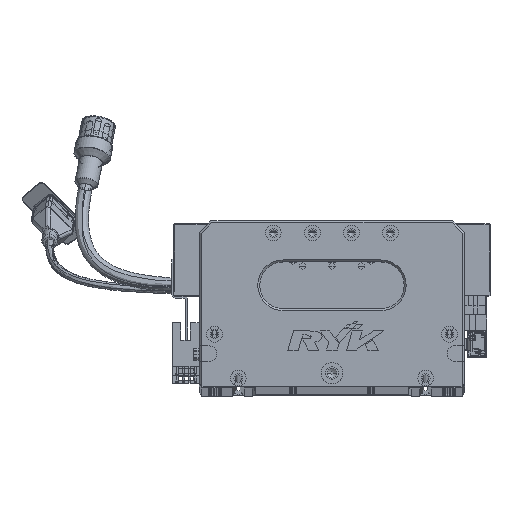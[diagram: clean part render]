
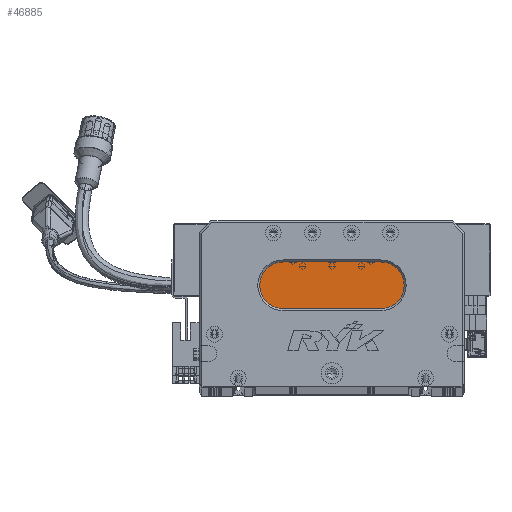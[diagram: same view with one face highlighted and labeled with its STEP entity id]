
A CAD part, top view. The second image highlights one B-rep face of the part: STEP entity #46885.
In plain terms, the highlighted planar face has unit normal (0, 0, 1) as drawn and (0, 0, -1) by its records, which use the part's own axes.
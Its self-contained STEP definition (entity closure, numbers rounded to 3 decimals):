
#1298 = EDGE_LOOP ( 'NONE', ( #40685, #107245, #110686, #108001, #11048 ) ) ;
#2225 = AXIS2_PLACEMENT_3D ( 'NONE', #120636, #111192, #70315 ) ;
#3772 = VERTEX_POINT ( 'NONE', #111760 ) ;
#6869 = CIRCLE ( 'NONE', #9767, 12. ) ;
#8451 = DIRECTION ( 'NONE',  ( -1., 0., 0. ) ) ;
#8865 = CARTESIAN_POINT ( 'NONE',  ( 93., 52., 13. ) ) ;
#8964 = CARTESIAN_POINT ( 'NONE',  ( 93., 64., 13. ) ) ;
#9767 = AXIS2_PLACEMENT_3D ( 'NONE', #32558, #33845, #122069 ) ;
#11048 = ORIENTED_EDGE ( 'NONE', *, *, #45317, .T. ) ;
#15729 = VECTOR ( 'NONE', #90178, 1000. ) ;
#20678 = VERTEX_POINT ( 'NONE', #8964 ) ;
#20924 = VECTOR ( 'NONE', #29504, 1000. ) ;
#29504 = DIRECTION ( 'NONE',  ( -1., 0., 0. ) ) ;
#32558 = CARTESIAN_POINT ( 'NONE',  ( 43., 52., 13. ) ) ;
#33845 = DIRECTION ( 'NONE',  ( 0., 0., -1. ) ) ;
#34632 = EDGE_CURVE ( 'NONE', #42449, #101112, #109773, .T. ) ;
#40685 = ORIENTED_EDGE ( 'NONE', *, *, #67190, .T. ) ;
#42449 = VERTEX_POINT ( 'NONE', #57749 ) ;
#45317 = EDGE_CURVE ( 'NONE', #63274, #20678, #80570, .T. ) ;
#46885 = ADVANCED_FACE ( 'NONE', ( #66313 ), #71585, .T. ) ;
#48554 = AXIS2_PLACEMENT_3D ( 'NONE', #97348, #97779, #78004 ) ;
#49781 = CARTESIAN_POINT ( 'NONE',  ( 93., 40., 13. ) ) ;
#56030 = EDGE_CURVE ( 'NONE', #3772, #42449, #77904, .T. ) ;
#56054 = CARTESIAN_POINT ( 'NONE',  ( 31., 52., 13. ) ) ;
#57749 = CARTESIAN_POINT ( 'NONE',  ( 43., 40., 13. ) ) ;
#63274 = VERTEX_POINT ( 'NONE', #118246 ) ;
#66313 = FACE_OUTER_BOUND ( 'NONE', #1298, .T. ) ;
#66611 = DIRECTION ( 'NONE',  ( 0., 0., -1. ) ) ;
#67190 = EDGE_CURVE ( 'NONE', #20678, #3772, #117437, .T. ) ;
#69965 = CARTESIAN_POINT ( 'NONE',  ( 93., 64., 13. ) ) ;
#70315 = DIRECTION ( 'NONE',  ( -1., 0., 0. ) ) ;
#71585 = PLANE ( 'NONE',  #2225 ) ;
#77904 = LINE ( 'NONE', #49781, #20924 ) ;
#78004 = DIRECTION ( 'NONE',  ( -1., 0., 0. ) ) ;
#80570 = LINE ( 'NONE', #69965, #15729 ) ;
#82127 = EDGE_CURVE ( 'NONE', #101112, #63274, #6869, .T. ) ;
#90178 = DIRECTION ( 'NONE',  ( 1., 0., 0. ) ) ;
#97348 = CARTESIAN_POINT ( 'NONE',  ( 43., 52., 13. ) ) ;
#97779 = DIRECTION ( 'NONE',  ( 0., 0., -1. ) ) ;
#101112 = VERTEX_POINT ( 'NONE', #56054 ) ;
#107245 = ORIENTED_EDGE ( 'NONE', *, *, #56030, .T. ) ;
#108001 = ORIENTED_EDGE ( 'NONE', *, *, #82127, .T. ) ;
#109773 = CIRCLE ( 'NONE', #48554, 12. ) ;
#110686 = ORIENTED_EDGE ( 'NONE', *, *, #34632, .T. ) ;
#110833 = AXIS2_PLACEMENT_3D ( 'NONE', #8865, #66611, #8451 ) ;
#111192 = DIRECTION ( 'NONE',  ( 0., 0., -1. ) ) ;
#111760 = CARTESIAN_POINT ( 'NONE',  ( 93., 40., 13. ) ) ;
#117437 = CIRCLE ( 'NONE', #110833, 12. ) ;
#118246 = CARTESIAN_POINT ( 'NONE',  ( 43., 64., 13. ) ) ;
#120636 = CARTESIAN_POINT ( 'NONE',  ( 93., 52., 13. ) ) ;
#122069 = DIRECTION ( 'NONE',  ( -1., 0., 0. ) ) ;
